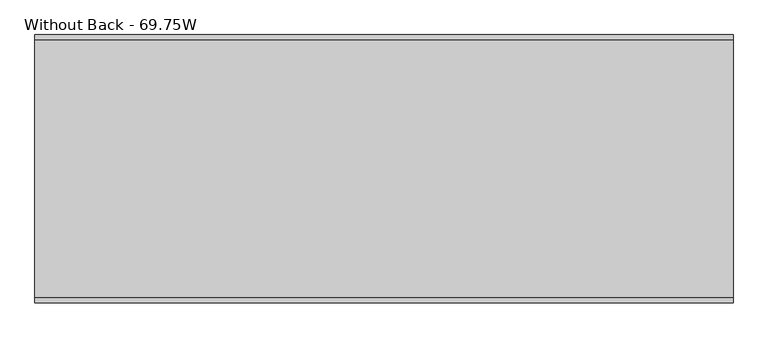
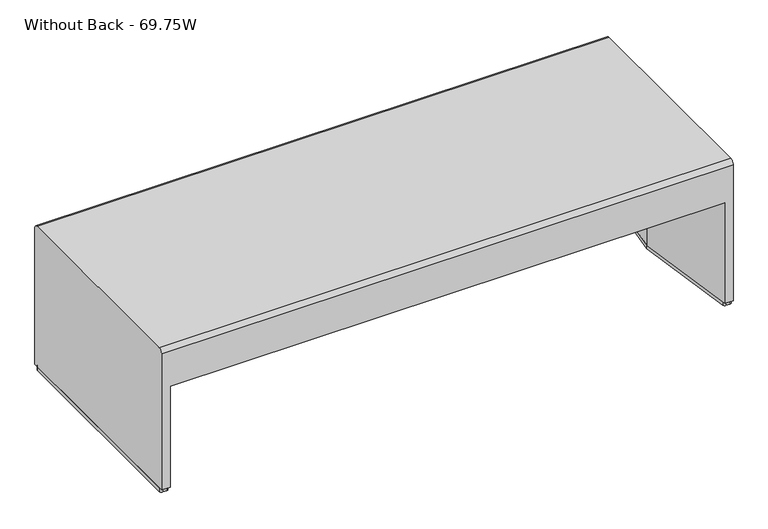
"""IFC4 building model written with IfcOpenShell, lengths in millimetres: furniture geometry, Steelcase Coalesse - Together- Seating - Bench - Straight : Without Back - 69.75W."""

from ifc_helpers import new_model, si_unit, point, frame, frame_2d, origin, origin_with_axes, place, context, project, spatial, polyline, circle_curve, trimmed, segment, composite_curve, outline, extrude, source, transform, mapped, element, save
from ifc_brep_helpers import plane_surface, cylinder_surface, advanced_brep


def without_back_69_75w_5d1551a5(model_context):
    return source(origin(), model_context, "Body", "SolidModel", [
        advanced_brep(
        [(211.1974085, 12.7, 471.2287949), (211.1974085, 0.0, 458.5287949), (211.1974085, 0.0, 12.7976677), (211.1974085, 680.4865973, 12.7976677), (211.1974085, 680.4865973, 458.5287949), (211.1974085, 667.7865973, 471.2287949), (-1560.4525915, 12.7, 471.2287949), (-1560.4525915, 667.7865973, 471.2287949), (-1560.4525915, 680.4865973, 458.5287949), (-1560.4525915, 680.4865973, 12.7976677), (-1560.4525915, 0.0, 12.7976677), (-1560.4525915, 0.0, 458.5287949), (-1534.2758116, 0.0, 12.7976677), (-1534.2758116, 0.0, 343.3718099), (185.0217103, 0.0, 343.3718099), (185.0206286, 0.0, 12.7976677), (-1489.9443111, 337.8527218, 343.3718099), (-1534.5828635, 680.4865973, 343.3718099), (185.3276806, 680.4865973, 343.3718099), (140.6891281, 337.8527218, 343.3718099), (185.3287419, 680.4865973, 12.7976677), (-1534.5839248, 680.4865973, 12.7976677), (-1489.9443111, 337.8527218, 12.7976677), (140.6891281, 337.8527218, 12.7976677)],
        [
            (0, 1, circle_curve(frame((211.1974085, 12.7, 458.5287949), z_axis=(1.0, 0.0, 0.0), x_axis=(0.0, 1.0, 0.0)), 12.7)),
            (1, 2),
            (2, 3),
            (3, 4),
            (4, 5, circle_curve(frame((211.1974085, 667.7865973, 458.5287949), z_axis=(1.0, 0.0, 0.0), x_axis=(0.0, 1.0, 0.0)), 12.7)),
            (5, 0),
            (6, 7),
            (7, 8, circle_curve(frame((-1560.4525915, 667.7865973, 458.5287949), z_axis=(-1.0, 0.0, 0.0), x_axis=(0.0, 1.0, 0.0)), 12.7)),
            (8, 9),
            (9, 10),
            (10, 11),
            (11, 6, circle_curve(frame((-1560.4525915, 12.7, 458.5287949), z_axis=(-1.0, 0.0, 0.0), x_axis=(0.0, 1.0, 0.0)), 12.7)),
            (0, 6),
            (11, 1),
            (10, 12),
            (12, 13),
            (13, 14),
            (14, 15),
            (15, 2),
            (16, 17),
            (17, 18),
            (18, 19),
            (19, 14),
            (13, 16),
            (3, 20),
            (20, 18),
            (17, 21),
            (21, 9),
            (8, 4),
            (7, 5),
            (22, 12),
            (21, 22),
            (16, 22),
            (23, 20),
            (15, 23),
            (19, 23),
        ],
        [
            plane_surface(frame((211.1974085, 25.4, 458.5287949), z_axis=(1.0, 0.0, 0.0), x_axis=(0.0, 0.0, 1.0))),
            plane_surface(frame((-1560.4525915, 25.4, 458.5287949), z_axis=(-1.0, 0.0, 0.0), x_axis=(0.0, 0.0, -1.0))),
            cylinder_surface(frame((-1560.4525915, 12.7, 458.5287949), z_axis=(1.0, 0.0, 0.0), x_axis=(0.0, 1.0, 0.0)), 12.7),
            plane_surface(frame((211.1974085, 0.0, 458.5287949), z_axis=(0.0, -1.0, 0.0), x_axis=(-1.0, 0.0, 0.0))),
            plane_surface(frame((211.1974085, 0.0, 343.3718099), z_axis=(0.0, 0.0, -1.0), x_axis=(-1.0, 0.0, 0.0))),
            plane_surface(frame((211.1974085, 680.4865973, 343.3718099), z_axis=(0.0, 1.0, 0.0), x_axis=(-1.0, 0.0, 0.0))),
            cylinder_surface(frame((-1560.4525915, 667.7865973, 458.5287949), z_axis=(1.0, 0.0, 0.0), x_axis=(0.0, 1.0, 0.0)), 12.7),
            plane_surface(frame((211.1974085, 667.7865973, 471.2287949), z_axis=(0.0, 0.0, 1.0), x_axis=(-1.0, 0.0, 0.0))),
            plane_surface(frame((-1534.5839248, 680.4947435, 12.7976677), z_axis=(0.0, 0.0, -1.0), x_axis=(0.1291888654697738, -0.9916200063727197, 0.0))),
            plane_surface(frame((-1489.9443111, 337.8527218, 343.3718099), z_axis=(0.9916200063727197, 0.1291888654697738, 0.0), x_axis=(0.0, 0.0, -1.0))),
            plane_surface(frame((-1534.2758116, 0.0082432, 343.3718099), z_axis=(0.9915004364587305, -0.13010336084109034, 0.0), x_axis=(0.0, 0.0, -1.0))),
            plane_surface(frame((140.6891281, 337.8527218, 12.7976677), z_axis=(0.0, 0.0, -1.0), x_axis=(-0.13010336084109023, 0.9915004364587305, 0.0))),
            plane_surface(frame((140.6891281, 337.8527218, 343.3718099), z_axis=(-0.9915004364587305, -0.13010336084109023, 0.0), x_axis=(0.0, 0.0, -1.0))),
            plane_surface(frame((185.3287419, 680.4947435, 343.3718099), z_axis=(-0.9916200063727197, 0.1291888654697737, 0.0), x_axis=(0.0, 0.0, -1.0))),
        ],
        [
            (0, [[1, 2, 3, 4, 5, 6]]),
            (1, [[7, 8, 9, 10, 11, 12]]),
            (2, [[-1, 13, -12, 14]]),
            (3, [[-2, -14, -11, 15, 16, 17, 18, 19]]),
            (4, [[20, 21, 22, 23, -17, 24]]),
            (5, [[-4, 25, 26, -21, 27, 28, -9, 29]]),
            (6, [[-5, -29, -8, 30]]),
            (7, [[-6, -30, -7, -13]]),
            (8, [[31, -15, -10, -28, 32]]),
            (9, [[-32, -27, -20, 33]]),
            (10, [[-31, -33, -24, -16]]),
            (11, [[34, -25, -3, -19, 35]]),
            (12, [[-35, -18, -23, 36]]),
            (13, [[-34, -36, -22, -26]]),
        ],
    ),
        extrude(outline(composite_curve([segment(polyline([(-1490.4003033, 342.7173042), (-1535.4006906, 11.5995062)]), True, "CONTINUOUS"), segment(trimmed(circle_curve(frame_2d((-1541.6928483, 12.4546385)), 6.35), [point((-1535.4006906, 11.5995062))], [point((-1541.6980349, 6.1046406))], False, "CARTESIAN"), True, "CONTINUOUS"), segment(polyline([(-1541.6980349, 6.1046406), (-1554.1552997, 6.1148157)]), True, "CONTINUOUS"), segment(trimmed(circle_curve(frame_2d((-1554.1501131, 12.4648135)), 6.35), [point((-1554.1552997, 6.1148157))], [point((-1560.500111, 12.4700002))], False, "CARTESIAN"), True, "CONTINUOUS"), segment(polyline([(-1560.500111, 12.4700002), (-1559.9645947, 668.1010803)]), True, "CONTINUOUS"), segment(trimmed(circle_curve(frame_2d((-1553.6145969, 668.0958937)), 6.35), [point((-1559.9645947, 668.1010803))], [point((-1553.6094102, 674.4458915))], False, "CARTESIAN"), True, "CONTINUOUS"), segment(polyline([(-1553.6094102, 674.4458915), (-1541.0863928, 674.4356628)]), True, "CONTINUOUS"), segment(trimmed(circle_curve(frame_2d((-1541.0921357, 667.4047129)), 7.0309522), [point((-1541.0863928, 674.4356628))], [point((-1534.1237233, 668.3404046))], False, "CARTESIAN"), True, "CONTINUOUS"), segment(polyline([(-1534.1237233, 668.3404046), (-1490.4003033, 342.7173042)]), True, "CONTINUOUS")], self_intersect=False)), origin_with_axes(), (0.0, 0.0, 1.0), 12.7976677),
        extrude(outline(composite_curve([segment(polyline([(141.1451204, 342.7173042), (184.8685403, 668.3404046)]), True, "CONTINUOUS"), segment(trimmed(circle_curve(frame_2d((191.8369527, 667.4047129)), 7.0309522), [point((184.8685403, 668.3404046))], [point((191.8312098, 674.4356628))], False, "CARTESIAN"), True, "CONTINUOUS"), segment(polyline([(191.8312098, 674.4356628), (204.3542272, 674.4458915)]), True, "CONTINUOUS"), segment(trimmed(circle_curve(frame_2d((204.3594139, 668.0958937)), 6.35), [point((204.3542272, 674.4458915))], [point((210.7094118, 668.1010803))], False, "CARTESIAN"), True, "CONTINUOUS"), segment(polyline([(210.7094118, 668.1010803), (211.244928, 12.4700002)]), True, "CONTINUOUS"), segment(trimmed(circle_curve(frame_2d((204.8949301, 12.4648135)), 6.35), [point((211.244928, 12.4700002))], [point((204.9001168, 6.1148157))], False, "CARTESIAN"), True, "CONTINUOUS"), segment(polyline([(204.9001168, 6.1148157), (192.442852, 6.1046406)]), True, "CONTINUOUS"), segment(trimmed(circle_curve(frame_2d((192.4376653, 12.4546385)), 6.35), [point((192.442852, 6.1046406))], [point((186.1455076, 11.5995062))], False, "CARTESIAN"), True, "CONTINUOUS"), segment(polyline([(186.1455076, 11.5995062), (141.1451204, 342.7173042)]), True, "CONTINUOUS")], self_intersect=False)), origin_with_axes(), (0.0, 0.0, 1.0), 12.7976677),
    ])


if __name__ == "__main__":
    model = new_model("IFC4")
    model_context = context("Model", 3, world=origin())
    ifc_project = project(units=[si_unit("LENGTHUNIT", "METRE", prefix="MILLI")], contexts=[model_context])
    site = spatial("IfcSite", under=ifc_project)
    building = spatial("IfcBuilding", under=site)
    placement = place(None, origin())
    without_back_69_75w_shape = without_back_69_75w_5d1551a5(model_context)
    element("IfcFurniture", 1, ObjectType="Steelcase Coalesse - Together- Seating - Bench - Straight : Without Back - 69.75W", at=placement, inside=building, context=model_context, shape_type="MappedRepresentation", body=[
        mapped(without_back_69_75w_shape, transform((0.0, 0.0, 0.0), x_axis=(1.0, 0.0, 0.0), y_axis=(0.0, 1.0, 0.0), z_axis=(0.0, 0.0, 1.0))),
    ])
    save(model, "model.ifc")
